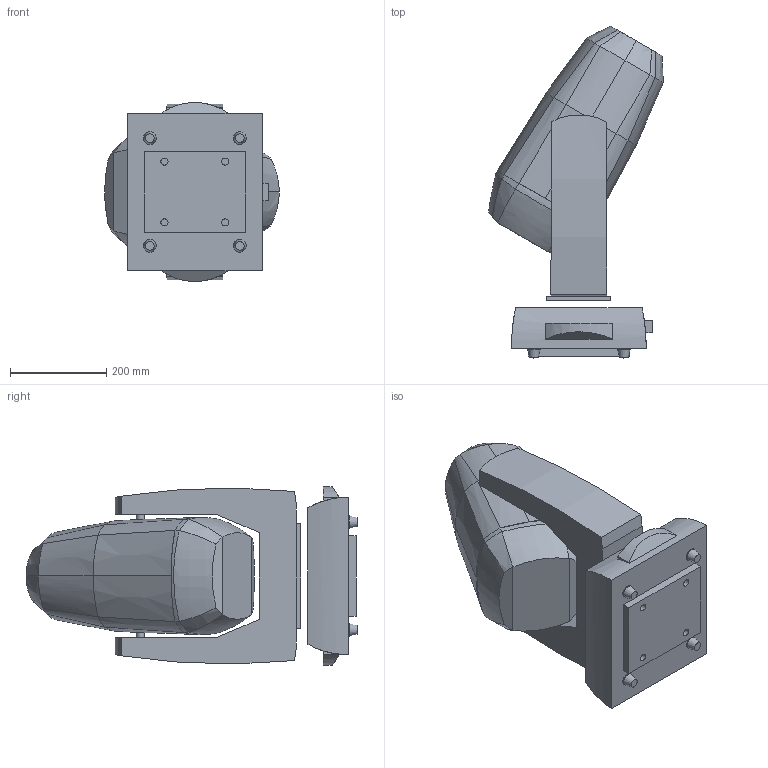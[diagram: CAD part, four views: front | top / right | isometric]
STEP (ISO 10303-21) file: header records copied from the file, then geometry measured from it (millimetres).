
FILE_DESCRIPTION(/* description */ (''),/* implementation_level */ '2;1');
FILE_NAME(/* name */ 'D:/dgooch/Documents/CADENG/PRO/Rogue Outcast 1 Hybrid/30/3D/Rogue Outcast 1 Hybrid_30.step',/* time_stamp */ '2020-01-27T09:28:50-05:00',/* author */ (''),/* organization */ (''),/* preprocessor_version */ 'ST-DEVELOPER v18',/* originating_system */ 'Autodesk Translation Framework v8.12.0.6',/* authorisation */ '');
FILE_SCHEMA (('AUTOMOTIVE_DESIGN { 1 0 10303 214 3 1 1 }'));
Length unit declared in the file: millimetre
Products named in the file (4): Rogue Outcast 1 Hybrid-20200117; Head (1); Base (1); Arm (1)
Assembly tree (3 placements, depth 2):
  Rogue Outcast 1 Hybrid-20200117
    Head (1)
    Base (1)
    Arm (1)
Bounding box: 363.23 x 690.35 x 372.32 mm (x, y, z)
Volume: 33519938.8 mm3; surface area: 1098014.5 mm2
Topology: 3 solids, 3 shells, 128 faces, 322 edges, 210 vertices
Faces by surface type: bspline 50, plane 49, cylinder 21, cone 8
Full cylindrical faces by diameter (mm): 14.903 x4, 16.258 x2, 26.194 x4, 119.599 x1
Entity records: 30328 total; most frequent: CARTESIAN_POINT 27371, ORIENTED_EDGE 644, DIRECTION 494, EDGE_CURVE 322, VERTEX_POINT 210, AXIS2_PLACEMENT_3D 178, EDGE_LOOP 146, LINE 138
